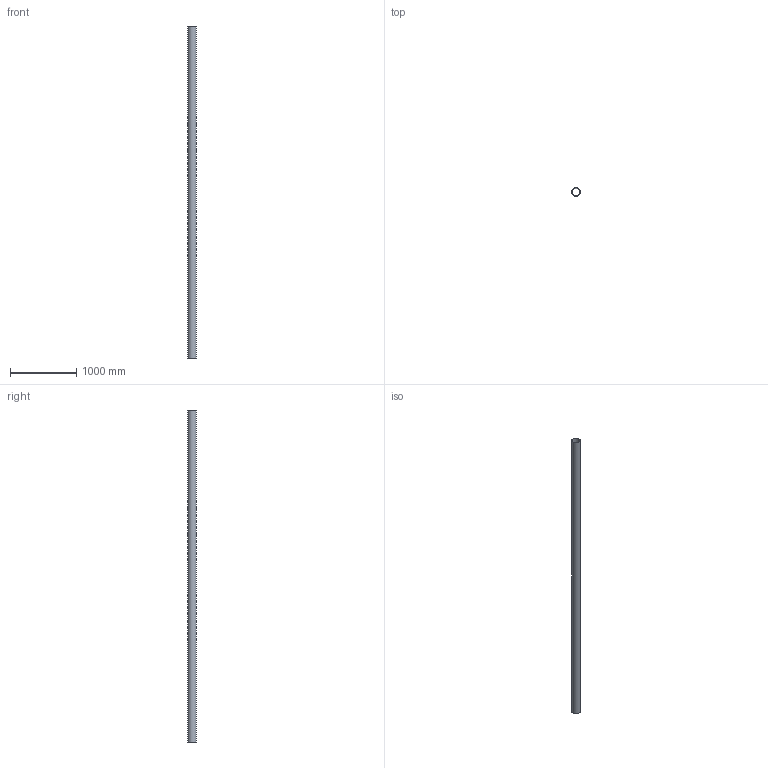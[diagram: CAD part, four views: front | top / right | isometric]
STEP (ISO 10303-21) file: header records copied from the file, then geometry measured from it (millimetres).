
FILE_DESCRIPTION(/* description */ (''),/* implementation_level */ '2;1');
FILE_NAME(/* name */ 'C:\Geberit-Teile\Export 2019\379.000.16.0\stp\368000.stp',/* time_stamp */ '2019-06-06T10:48:39+02:00',/* author */ ('JANAN'),/* organization */ (''),/* preprocessor_version */ 'ST-DEVELOPER v16.13',/* originating_system */ 'Autodesk Inventor 2018',/* authorisation */ '');
FILE_SCHEMA (('AUTOMOTIVE_DESIGN { 1 0 10303 214 3 1 1 }'));
Length unit declared in the file: millimetre
Products named in the file (1): Rohr PE-HD d125x4.9 L5000
Bounding box: 125 x 125 x 5000 mm (x, y, z)
Volume: 9243979.3 mm3; surface area: 3776750.4 mm2
Topology: 1 solids, 1 shells, 4 faces, 6 edges, 4 vertices
Faces by surface type: cylinder 2, plane 2
Full cylindrical faces by diameter (mm): 115.2 x1, 125 x1
Entity records: 131 total; most frequent: DIRECTION 18, CARTESIAN_POINT 13, AXIS2_PLACEMENT_3D 9, EDGE_LOOP 8, ORIENTED_EDGE 8, STYLED_ITEM 5, FACE_BOUND 4, FACE_OUTER_BOUND 4
